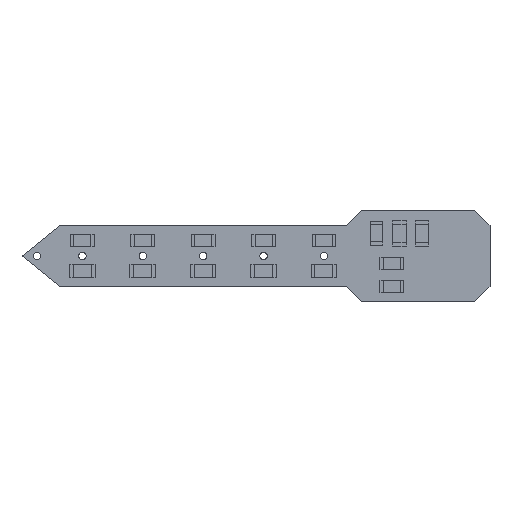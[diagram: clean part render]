
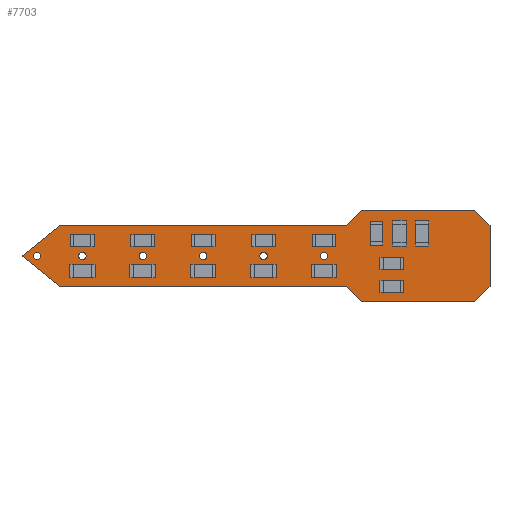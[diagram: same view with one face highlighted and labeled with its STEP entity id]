
A CAD part, top view. The second image highlights one B-rep face of the part: STEP entity #7703.
In plain terms, the highlighted planar face has unit normal (0, 0, 1).
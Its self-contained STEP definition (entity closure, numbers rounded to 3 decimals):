
#6774 = VERTEX_POINT('',#6775);
#6775 = CARTESIAN_POINT('',(5.,-4.,0.));
#6781 = EDGE_CURVE('',#6774,#6782,#6784,.T.);
#6782 = VERTEX_POINT('',#6783);
#6783 = CARTESIAN_POINT('',(0.,0.,0.));
#6784 = LINE('',#6785,#6786);
#6785 = CARTESIAN_POINT('',(5.,-4.,0.));
#6786 = VECTOR('',#6787,1.);
#6787 = DIRECTION('',(-0.781,0.625,0.));
#6812 = EDGE_CURVE('',#6782,#6813,#6815,.T.);
#6813 = VERTEX_POINT('',#6814);
#6814 = CARTESIAN_POINT('',(5.,4.,0.));
#6815 = LINE('',#6816,#6817);
#6816 = CARTESIAN_POINT('',(0.,0.,0.));
#6817 = VECTOR('',#6818,1.);
#6818 = DIRECTION('',(0.781,0.625,0.));
#6843 = EDGE_CURVE('',#6813,#6844,#6846,.T.);
#6844 = VERTEX_POINT('',#6845);
#6845 = CARTESIAN_POINT('',(43.,4.,0.));
#6846 = LINE('',#6847,#6848);
#6847 = CARTESIAN_POINT('',(5.,4.,0.));
#6848 = VECTOR('',#6849,1.);
#6849 = DIRECTION('',(1.,0.,0.));
#6874 = EDGE_CURVE('',#6844,#6875,#6877,.T.);
#6875 = VERTEX_POINT('',#6876);
#6876 = CARTESIAN_POINT('',(45.,6.,0.));
#6877 = LINE('',#6878,#6879);
#6878 = CARTESIAN_POINT('',(43.,4.,0.));
#6879 = VECTOR('',#6880,1.);
#6880 = DIRECTION('',(0.707,0.707,0.));
#6905 = EDGE_CURVE('',#6875,#6906,#6908,.T.);
#6906 = VERTEX_POINT('',#6907);
#6907 = CARTESIAN_POINT('',(60.,6.,0.));
#6908 = LINE('',#6909,#6910);
#6909 = CARTESIAN_POINT('',(45.,6.,0.));
#6910 = VECTOR('',#6911,1.);
#6911 = DIRECTION('',(1.,0.,0.));
#6936 = EDGE_CURVE('',#6906,#6937,#6939,.T.);
#6937 = VERTEX_POINT('',#6938);
#6938 = CARTESIAN_POINT('',(62.,4.,0.));
#6939 = LINE('',#6940,#6941);
#6940 = CARTESIAN_POINT('',(60.,6.,0.));
#6941 = VECTOR('',#6942,1.);
#6942 = DIRECTION('',(0.707,-0.707,0.));
#6967 = EDGE_CURVE('',#6937,#6968,#6970,.T.);
#6968 = VERTEX_POINT('',#6969);
#6969 = CARTESIAN_POINT('',(62.,-4.,0.));
#6970 = LINE('',#6971,#6972);
#6971 = CARTESIAN_POINT('',(62.,4.,0.));
#6972 = VECTOR('',#6973,1.);
#6973 = DIRECTION('',(0.,-1.,0.));
#6998 = EDGE_CURVE('',#6968,#6999,#7001,.T.);
#6999 = VERTEX_POINT('',#7000);
#7000 = CARTESIAN_POINT('',(60.,-6.,0.));
#7001 = LINE('',#7002,#7003);
#7002 = CARTESIAN_POINT('',(62.,-4.,0.));
#7003 = VECTOR('',#7004,1.);
#7004 = DIRECTION('',(-0.707,-0.707,0.));
#7029 = EDGE_CURVE('',#6999,#7030,#7032,.T.);
#7030 = VERTEX_POINT('',#7031);
#7031 = CARTESIAN_POINT('',(45.,-6.,0.));
#7032 = LINE('',#7033,#7034);
#7033 = CARTESIAN_POINT('',(60.,-6.,0.));
#7034 = VECTOR('',#7035,1.);
#7035 = DIRECTION('',(-1.,0.,0.));
#7060 = EDGE_CURVE('',#7030,#7061,#7063,.T.);
#7061 = VERTEX_POINT('',#7062);
#7062 = CARTESIAN_POINT('',(43.,-4.,0.));
#7063 = LINE('',#7064,#7065);
#7064 = CARTESIAN_POINT('',(45.,-6.,0.));
#7065 = VECTOR('',#7066,1.);
#7066 = DIRECTION('',(-0.707,0.707,0.));
#7091 = EDGE_CURVE('',#7061,#6774,#7092,.T.);
#7092 = LINE('',#7093,#7094);
#7093 = CARTESIAN_POINT('',(43.,-4.,0.));
#7094 = VECTOR('',#7095,1.);
#7095 = DIRECTION('',(-1.,0.,0.));
#7115 = VERTEX_POINT('',#7116);
#7116 = CARTESIAN_POINT('',(8.75,-2.,0.));
#7122 = EDGE_CURVE('',#7115,#7115,#7123,.T.);
#7123 = CIRCLE('',#7124,0.75);
#7124 = AXIS2_PLACEMENT_3D('',#7125,#7126,#7127);
#7125 = CARTESIAN_POINT('',(8.,-2.,0.));
#7126 = DIRECTION('',(0.,0.,1.));
#7127 = DIRECTION('',(1.,0.,0.));
#7148 = VERTEX_POINT('',#7149);
#7149 = CARTESIAN_POINT('',(2.5,0.,0.));
#7155 = EDGE_CURVE('',#7148,#7148,#7156,.T.);
#7156 = CIRCLE('',#7157,0.5);
#7157 = AXIS2_PLACEMENT_3D('',#7158,#7159,#7160);
#7158 = CARTESIAN_POINT('',(2.,0.,0.));
#7159 = DIRECTION('',(0.,0.,1.));
#7160 = DIRECTION('',(1.,0.,0.));
#7181 = VERTEX_POINT('',#7182);
#7182 = CARTESIAN_POINT('',(24.75,-2.,0.));
#7188 = EDGE_CURVE('',#7181,#7181,#7189,.T.);
#7189 = CIRCLE('',#7190,0.75);
#7190 = AXIS2_PLACEMENT_3D('',#7191,#7192,#7193);
#7191 = CARTESIAN_POINT('',(24.,-2.,0.));
#7192 = DIRECTION('',(0.,0.,1.));
#7193 = DIRECTION('',(1.,0.,0.));
#7214 = VERTEX_POINT('',#7215);
#7215 = CARTESIAN_POINT('',(16.75,-2.,0.));
#7221 = EDGE_CURVE('',#7214,#7214,#7222,.T.);
#7222 = CIRCLE('',#7223,0.75);
#7223 = AXIS2_PLACEMENT_3D('',#7224,#7225,#7226);
#7224 = CARTESIAN_POINT('',(16.,-2.,0.));
#7225 = DIRECTION('',(0.,0.,1.));
#7226 = DIRECTION('',(1.,0.,0.));
#7247 = VERTEX_POINT('',#7248);
#7248 = CARTESIAN_POINT('',(8.5,0.,0.));
#7254 = EDGE_CURVE('',#7247,#7247,#7255,.T.);
#7255 = CIRCLE('',#7256,0.5);
#7256 = AXIS2_PLACEMENT_3D('',#7257,#7258,#7259);
#7257 = CARTESIAN_POINT('',(8.,0.,0.));
#7258 = DIRECTION('',(0.,0.,1.));
#7259 = DIRECTION('',(1.,0.,0.));
#7280 = VERTEX_POINT('',#7281);
#7281 = CARTESIAN_POINT('',(8.75,2.,0.));
#7287 = EDGE_CURVE('',#7280,#7280,#7288,.T.);
#7288 = CIRCLE('',#7289,0.75);
#7289 = AXIS2_PLACEMENT_3D('',#7290,#7291,#7292);
#7290 = CARTESIAN_POINT('',(8.,2.,0.));
#7291 = DIRECTION('',(0.,0.,1.));
#7292 = DIRECTION('',(1.,0.,0.));
#7313 = VERTEX_POINT('',#7314);
#7314 = CARTESIAN_POINT('',(16.5,0.,0.));
#7320 = EDGE_CURVE('',#7313,#7313,#7321,.T.);
#7321 = CIRCLE('',#7322,0.5);
#7322 = AXIS2_PLACEMENT_3D('',#7323,#7324,#7325);
#7323 = CARTESIAN_POINT('',(16.,0.,0.));
#7324 = DIRECTION('',(0.,0.,1.));
#7325 = DIRECTION('',(1.,0.,0.));
#7346 = VERTEX_POINT('',#7347);
#7347 = CARTESIAN_POINT('',(16.75,2.,0.));
#7353 = EDGE_CURVE('',#7346,#7346,#7354,.T.);
#7354 = CIRCLE('',#7355,0.75);
#7355 = AXIS2_PLACEMENT_3D('',#7356,#7357,#7358);
#7356 = CARTESIAN_POINT('',(16.,2.,0.));
#7357 = DIRECTION('',(0.,0.,1.));
#7358 = DIRECTION('',(1.,0.,0.));
#7379 = VERTEX_POINT('',#7380);
#7380 = CARTESIAN_POINT('',(32.5,0.,0.));
#7386 = EDGE_CURVE('',#7379,#7379,#7387,.T.);
#7387 = CIRCLE('',#7388,0.5);
#7388 = AXIS2_PLACEMENT_3D('',#7389,#7390,#7391);
#7389 = CARTESIAN_POINT('',(32.,0.,0.));
#7390 = DIRECTION('',(0.,0.,1.));
#7391 = DIRECTION('',(1.,0.,0.));
#7412 = VERTEX_POINT('',#7413);
#7413 = CARTESIAN_POINT('',(24.5,0.,0.));
#7419 = EDGE_CURVE('',#7412,#7412,#7420,.T.);
#7420 = CIRCLE('',#7421,0.5);
#7421 = AXIS2_PLACEMENT_3D('',#7422,#7423,#7424);
#7422 = CARTESIAN_POINT('',(24.,0.,0.));
#7423 = DIRECTION('',(0.,0.,1.));
#7424 = DIRECTION('',(1.,0.,0.));
#7445 = VERTEX_POINT('',#7446);
#7446 = CARTESIAN_POINT('',(40.75,-2.,0.));
#7452 = EDGE_CURVE('',#7445,#7445,#7453,.T.);
#7453 = CIRCLE('',#7454,0.75);
#7454 = AXIS2_PLACEMENT_3D('',#7455,#7456,#7457);
#7455 = CARTESIAN_POINT('',(40.,-2.,0.));
#7456 = DIRECTION('',(0.,0.,1.));
#7457 = DIRECTION('',(1.,0.,0.));
#7478 = VERTEX_POINT('',#7479);
#7479 = CARTESIAN_POINT('',(32.75,-2.,0.));
#7485 = EDGE_CURVE('',#7478,#7478,#7486,.T.);
#7486 = CIRCLE('',#7487,0.75);
#7487 = AXIS2_PLACEMENT_3D('',#7488,#7489,#7490);
#7488 = CARTESIAN_POINT('',(32.,-2.,0.));
#7489 = DIRECTION('',(0.,0.,1.));
#7490 = DIRECTION('',(1.,0.,0.));
#7511 = VERTEX_POINT('',#7512);
#7512 = CARTESIAN_POINT('',(32.75,2.,0.));
#7518 = EDGE_CURVE('',#7511,#7511,#7519,.T.);
#7519 = CIRCLE('',#7520,0.75);
#7520 = AXIS2_PLACEMENT_3D('',#7521,#7522,#7523);
#7521 = CARTESIAN_POINT('',(32.,2.,0.));
#7522 = DIRECTION('',(0.,0.,1.));
#7523 = DIRECTION('',(1.,0.,0.));
#7544 = VERTEX_POINT('',#7545);
#7545 = CARTESIAN_POINT('',(24.75,2.,0.));
#7551 = EDGE_CURVE('',#7544,#7544,#7552,.T.);
#7552 = CIRCLE('',#7553,0.75);
#7553 = AXIS2_PLACEMENT_3D('',#7554,#7555,#7556);
#7554 = CARTESIAN_POINT('',(24.,2.,0.));
#7555 = DIRECTION('',(0.,0.,1.));
#7556 = DIRECTION('',(1.,0.,0.));
#7577 = VERTEX_POINT('',#7578);
#7578 = CARTESIAN_POINT('',(40.5,0.,0.));
#7584 = EDGE_CURVE('',#7577,#7577,#7585,.T.);
#7585 = CIRCLE('',#7586,0.5);
#7586 = AXIS2_PLACEMENT_3D('',#7587,#7588,#7589);
#7587 = CARTESIAN_POINT('',(40.,0.,0.));
#7588 = DIRECTION('',(0.,0.,1.));
#7589 = DIRECTION('',(1.,0.,0.));
#7610 = VERTEX_POINT('',#7611);
#7611 = CARTESIAN_POINT('',(40.75,2.,0.));
#7617 = EDGE_CURVE('',#7610,#7610,#7618,.T.);
#7618 = CIRCLE('',#7619,0.75);
#7619 = AXIS2_PLACEMENT_3D('',#7620,#7621,#7622);
#7620 = CARTESIAN_POINT('',(40.,2.,0.));
#7621 = DIRECTION('',(0.,0.,1.));
#7622 = DIRECTION('',(1.,0.,0.));
#7703 = ADVANCED_FACE('',(#7704,#7717,#7720,#7723,#7726,#7729,#7732,
    #7735,#7738,#7741,#7744,#7747,#7750,#7753,#7756,#7759,#7762),#7765,
  .T.);
#7704 = FACE_BOUND('',#7705,.F.);
#7705 = EDGE_LOOP('',(#7706,#7707,#7708,#7709,#7710,#7711,#7712,#7713,
    #7714,#7715,#7716));
#7706 = ORIENTED_EDGE('',*,*,#6781,.T.);
#7707 = ORIENTED_EDGE('',*,*,#6812,.T.);
#7708 = ORIENTED_EDGE('',*,*,#6843,.T.);
#7709 = ORIENTED_EDGE('',*,*,#6874,.T.);
#7710 = ORIENTED_EDGE('',*,*,#6905,.T.);
#7711 = ORIENTED_EDGE('',*,*,#6936,.T.);
#7712 = ORIENTED_EDGE('',*,*,#6967,.T.);
#7713 = ORIENTED_EDGE('',*,*,#6998,.T.);
#7714 = ORIENTED_EDGE('',*,*,#7029,.T.);
#7715 = ORIENTED_EDGE('',*,*,#7060,.T.);
#7716 = ORIENTED_EDGE('',*,*,#7091,.T.);
#7717 = FACE_BOUND('',#7718,.T.);
#7718 = EDGE_LOOP('',(#7719));
#7719 = ORIENTED_EDGE('',*,*,#7122,.F.);
#7720 = FACE_BOUND('',#7721,.T.);
#7721 = EDGE_LOOP('',(#7722));
#7722 = ORIENTED_EDGE('',*,*,#7155,.F.);
#7723 = FACE_BOUND('',#7724,.T.);
#7724 = EDGE_LOOP('',(#7725));
#7725 = ORIENTED_EDGE('',*,*,#7188,.F.);
#7726 = FACE_BOUND('',#7727,.T.);
#7727 = EDGE_LOOP('',(#7728));
#7728 = ORIENTED_EDGE('',*,*,#7221,.F.);
#7729 = FACE_BOUND('',#7730,.T.);
#7730 = EDGE_LOOP('',(#7731));
#7731 = ORIENTED_EDGE('',*,*,#7254,.F.);
#7732 = FACE_BOUND('',#7733,.T.);
#7733 = EDGE_LOOP('',(#7734));
#7734 = ORIENTED_EDGE('',*,*,#7287,.F.);
#7735 = FACE_BOUND('',#7736,.T.);
#7736 = EDGE_LOOP('',(#7737));
#7737 = ORIENTED_EDGE('',*,*,#7320,.F.);
#7738 = FACE_BOUND('',#7739,.T.);
#7739 = EDGE_LOOP('',(#7740));
#7740 = ORIENTED_EDGE('',*,*,#7353,.F.);
#7741 = FACE_BOUND('',#7742,.T.);
#7742 = EDGE_LOOP('',(#7743));
#7743 = ORIENTED_EDGE('',*,*,#7386,.F.);
#7744 = FACE_BOUND('',#7745,.T.);
#7745 = EDGE_LOOP('',(#7746));
#7746 = ORIENTED_EDGE('',*,*,#7419,.F.);
#7747 = FACE_BOUND('',#7748,.T.);
#7748 = EDGE_LOOP('',(#7749));
#7749 = ORIENTED_EDGE('',*,*,#7452,.F.);
#7750 = FACE_BOUND('',#7751,.T.);
#7751 = EDGE_LOOP('',(#7752));
#7752 = ORIENTED_EDGE('',*,*,#7485,.F.);
#7753 = FACE_BOUND('',#7754,.T.);
#7754 = EDGE_LOOP('',(#7755));
#7755 = ORIENTED_EDGE('',*,*,#7518,.F.);
#7756 = FACE_BOUND('',#7757,.T.);
#7757 = EDGE_LOOP('',(#7758));
#7758 = ORIENTED_EDGE('',*,*,#7551,.F.);
#7759 = FACE_BOUND('',#7760,.T.);
#7760 = EDGE_LOOP('',(#7761));
#7761 = ORIENTED_EDGE('',*,*,#7584,.F.);
#7762 = FACE_BOUND('',#7763,.T.);
#7763 = EDGE_LOOP('',(#7764));
#7764 = ORIENTED_EDGE('',*,*,#7617,.F.);
#7765 = PLANE('',#7766);
#7766 = AXIS2_PLACEMENT_3D('',#7767,#7768,#7769);
#7767 = CARTESIAN_POINT('',(5.,-4.,0.));
#7768 = DIRECTION('',(0.,0.,1.));
#7769 = DIRECTION('',(1.,0.,0.));
